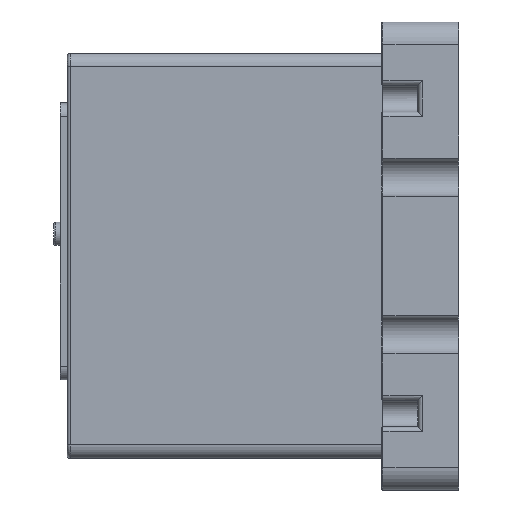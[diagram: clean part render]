
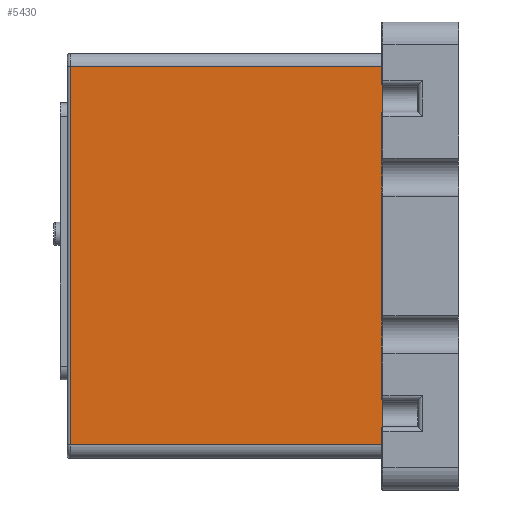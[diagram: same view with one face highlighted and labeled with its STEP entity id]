
A CAD part, left-side view. The second image highlights one B-rep face of the part: STEP entity #5430.
In plain terms, the highlighted planar face has unit normal (-1, 0, 0).
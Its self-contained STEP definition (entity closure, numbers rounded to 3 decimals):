
#3504=PLANE('',#41881);
#5430=ADVANCED_FACE('',(#7692),#3504,.F.);
#7692=FACE_OUTER_BOUND('',#9882,.T.);
#9882=EDGE_LOOP('',(#27987,#27988,#27989,#27990));
#14131=LINE('',#69523,#18585);
#14132=LINE('',#69526,#18586);
#14133=LINE('',#69528,#18587);
#14134=LINE('',#69530,#18588);
#18585=VECTOR('',#50573,1.);
#18586=VECTOR('',#50574,1.);
#18587=VECTOR('',#50575,1.);
#18588=VECTOR('',#50576,1.);
#27987=ORIENTED_EDGE('',*,*,#38335,.T.);
#27988=ORIENTED_EDGE('',*,*,#38336,.T.);
#27989=ORIENTED_EDGE('',*,*,#38337,.T.);
#27990=ORIENTED_EDGE('',*,*,#38338,.T.);
#33270=VERTEX_POINT('',#69524);
#33271=VERTEX_POINT('',#69525);
#33272=VERTEX_POINT('',#69527);
#33273=VERTEX_POINT('',#69529);
#38335=EDGE_CURVE('',#33270,#33271,#14131,.T.);
#38336=EDGE_CURVE('',#33271,#33272,#14132,.T.);
#38337=EDGE_CURVE('',#33272,#33273,#14133,.T.);
#38338=EDGE_CURVE('',#33273,#33270,#14134,.T.);
#41881=AXIS2_PLACEMENT_3D('',#69531,#50577,#50578);
#50573=DIRECTION('',(0.,1.,0.));
#50574=DIRECTION('',(0.,0.,-1.));
#50575=DIRECTION('',(0.,-1.,0.));
#50576=DIRECTION('',(0.,0.,1.));
#50577=DIRECTION('',(1.,0.,0.));
#50578=DIRECTION('',(0.,0.,-1.));
#69523=CARTESIAN_POINT('',(-44.5,70.,42.));
#69524=CARTESIAN_POINT('',(-44.5,0.,42.));
#69525=CARTESIAN_POINT('',(-44.5,69.3,42.));
#69526=CARTESIAN_POINT('',(-44.5,69.3,-42.));
#69527=CARTESIAN_POINT('',(-44.5,69.3,-42.));
#69528=CARTESIAN_POINT('',(-44.5,70.,-42.));
#69529=CARTESIAN_POINT('',(-44.5,0.,-42.));
#69530=CARTESIAN_POINT('',(-44.5,0.,-45.));
#69531=CARTESIAN_POINT('',(-44.5,70.,-45.));
